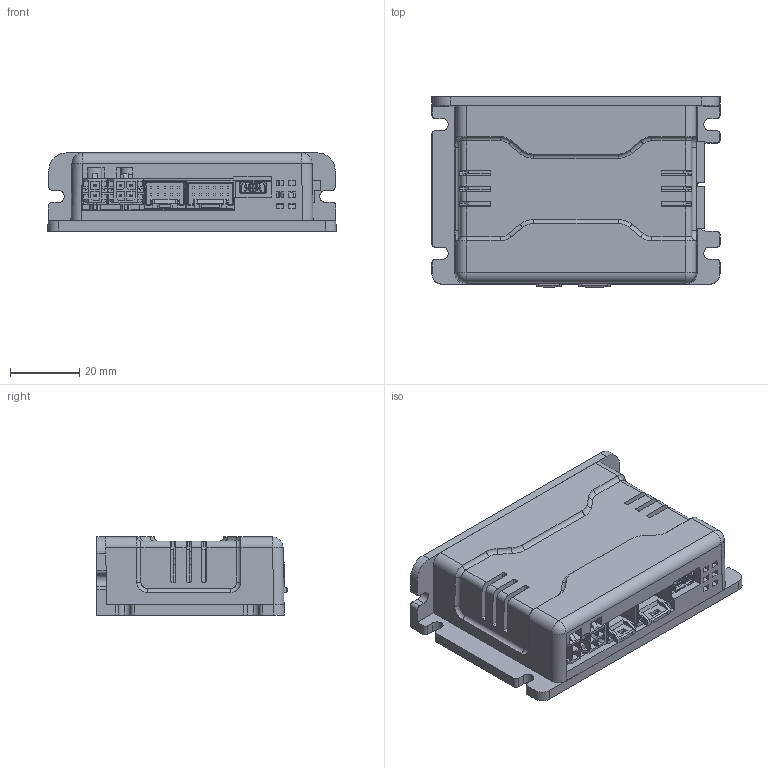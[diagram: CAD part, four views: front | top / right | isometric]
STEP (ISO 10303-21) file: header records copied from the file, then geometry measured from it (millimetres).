
FILE_DESCRIPTION (( 'STEP AP203' ), '1' );
FILE_NAME ('P2E-DR-000-01-R00.STEP', '2020-04-09T00:30:06', ( '' ), ( '' ), 'SwSTEP 2.0', 'SolidWorks 2013', '' );
FILE_SCHEMA (( 'CONFIG_CONTROL_DESIGN' ));
Length unit declared in the file: millimetre
Products named in the file (12): MOLEX_0678038020; 5018761240_1; M2D-DR-000-01-R00; 430450200; P2E-DR-000-01-R00; 430450400; M11M-DR-000-01-R00; Ezi-SERVO MINI PCB1; Ezi-SERVO MINI PCB2; 5018761040; countersunk flat cross head screw_ks_KS 1023 FC- M3 x 14-N; S05B-PASK-2_1
Assembly tree (13 placements, depth 2):
  P2E-DR-000-01-R00
    Ezi-SERVO MINI PCB1
    Ezi-SERVO MINI PCB2
    5018761040
    countersunk flat cross head screw_ks_KS 1023 FC- M3 x 14-N  x2
    S05B-PASK-2_1  x2
    5018761240_1
    430450200
    430450400
    M11M-DR-000-01-R00
    MOLEX_0678038020
    M2D-DR-000-01-R00
Bounding box: 82.99 x 54.8 x 22.5 mm (x, y, z)
Volume: 42741.2 mm3; surface area: 43289.6 mm2
Topology: 15 solids, 15 shells, 2265 faces, 6139 edges, 3972 vertices
Faces by surface type: plane 1708, cylinder 396, bspline 89, cone 46, torus 22, sphere 4
Entity records: 70749 total; most frequent: CARTESIAN_POINT 16064, ORIENTED_EDGE 11612, DIRECTION 10165, EDGE_CURVE 5806, LINE 4773, VECTOR 4773, VERTEX_POINT 3759, AXIS2_PLACEMENT_3D 2696
